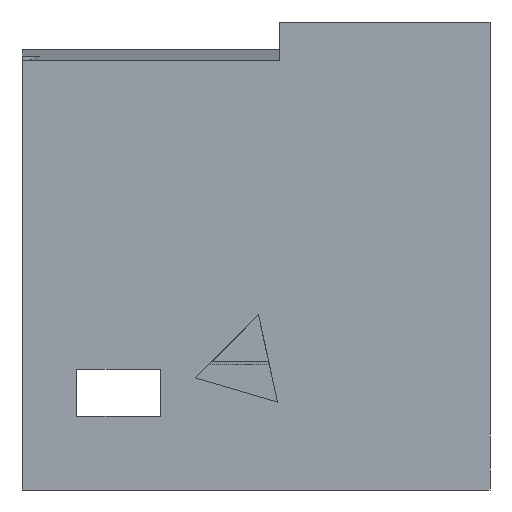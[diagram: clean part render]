
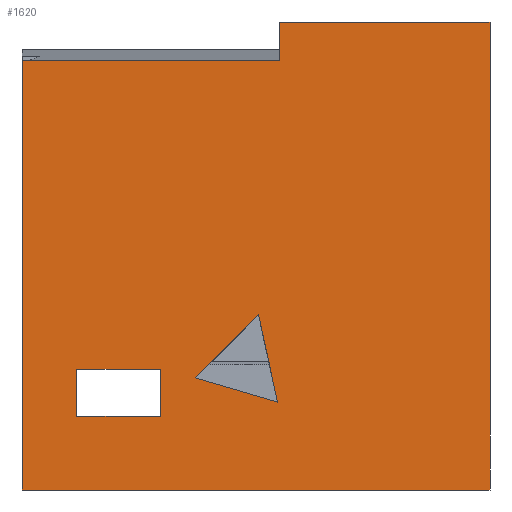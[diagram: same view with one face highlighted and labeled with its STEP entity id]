
A CAD part, front view. The second image highlights one B-rep face of the part: STEP entity #1620.
In plain terms, the highlighted planar face has unit normal (0, -1, 0).
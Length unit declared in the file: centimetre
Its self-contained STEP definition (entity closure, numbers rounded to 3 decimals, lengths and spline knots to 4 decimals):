
#12 = EDGE_CURVE ( 'NONE', #339, #1625, #585, .T. ) ;
#13 = EDGE_CURVE ( 'NONE', #671, #1727, #1277, .T. ) ;
#20 = CARTESIAN_POINT ( 'NONE',  ( 546.0761, 0., 187.8753 ) ) ;
#21 = EDGE_CURVE ( 'NONE', #740, #1259, #719, .T. ) ;
#25 = ORIENTED_EDGE ( 'NONE', *, *, #121, .F. ) ;
#32 = CARTESIAN_POINT ( 'NONE',  ( 0., 0., 1000. ) ) ;
#40 = LINE ( 'NONE', #764, #353 ) ;
#73 = LINE ( 'NONE', #886, #1039 ) ;
#107 = ORIENTED_EDGE ( 'NONE', *, *, #1722, .T. ) ;
#120 = CARTESIAN_POINT ( 'NONE',  ( 0., 0., 1000. ) ) ;
#121 = EDGE_CURVE ( 'NONE', #1512, #1029, #40, .T. ) ;
#124 = ORIENTED_EDGE ( 'NONE', *, *, #13, .T. ) ;
#156 = CARTESIAN_POINT ( 'NONE',  ( 546.0761, 0., 187.8753 ) ) ;
#162 = ORIENTED_EDGE ( 'NONE', *, *, #404, .T. ) ;
#166 = DIRECTION ( 'NONE',  ( -0.214, 0., 0.977 ) ) ;
#268 = EDGE_CURVE ( 'NONE', #1029, #1252, #447, .T. ) ;
#273 = FACE_OUTER_BOUND ( 'NONE', #704, .T. ) ;
#339 = VERTEX_POINT ( 'NONE', #840 ) ;
#353 = VECTOR ( 'NONE', #619, 100. ) ;
#363 = VECTOR ( 'NONE', #1642, 100. ) ;
#372 = CARTESIAN_POINT ( 'NONE',  ( 296.2615, 0., 258.4948 ) ) ;
#384 = CARTESIAN_POINT ( 'NONE',  ( 505.3133, 0., 374.2853 ) ) ;
#396 = EDGE_CURVE ( 'NONE', #1483, #671, #1164, .T. ) ;
#400 = VERTEX_POINT ( 'NONE', #1006 ) ;
#404 = EDGE_CURVE ( 'NONE', #1110, #1483, #73, .T. ) ;
#407 = EDGE_LOOP ( 'NONE', ( #25, #1112, #629 ) ) ;
#441 = ORIENTED_EDGE ( 'NONE', *, *, #579, .F. ) ;
#444 = VECTOR ( 'NONE', #576, 100. ) ;
#447 = LINE ( 'NONE', #1372, #838 ) ;
#465 = VECTOR ( 'NONE', #744, 100. ) ;
#499 = LINE ( 'NONE', #634, #753 ) ;
#510 = DIRECTION ( 'NONE',  ( -1., 0., 0. ) ) ;
#539 = DIRECTION ( 'NONE',  ( 0., 1., 0. ) ) ;
#564 = VECTOR ( 'NONE', #510, 100. ) ;
#576 = DIRECTION ( 'NONE',  ( 0., 0., -1. ) ) ;
#579 = EDGE_CURVE ( 'NONE', #1259, #339, #499, .T. ) ;
#585 = LINE ( 'NONE', #1545, #868 ) ;
#587 = VECTOR ( 'NONE', #1535, 100. ) ;
#607 = DIRECTION ( 'NONE',  ( 0., 0., -1. ) ) ;
#619 = DIRECTION ( 'NONE',  ( -0.707, 0., -0.707 ) ) ;
#620 = ORIENTED_EDGE ( 'NONE', *, *, #1742, .T. ) ;
#629 = ORIENTED_EDGE ( 'NONE', *, *, #268, .F. ) ;
#634 = CARTESIAN_POINT ( 'NONE',  ( 0., 0., 1000. ) ) ;
#671 = VERTEX_POINT ( 'NONE', #1446 ) ;
#694 = DIRECTION ( 'NONE',  ( 0., 0., 1. ) ) ;
#698 = ORIENTED_EDGE ( 'NONE', *, *, #396, .T. ) ;
#704 = EDGE_LOOP ( 'NONE', ( #1247, #1054, #1665, #620, #1497, #441 ) ) ;
#719 = LINE ( 'NONE', #1662, #1213 ) ;
#732 = LINE ( 'NONE', #32, #444 ) ;
#735 = CARTESIAN_POINT ( 'NONE',  ( 116.7908, 0., 157.3487 ) ) ;
#740 = VERTEX_POINT ( 'NONE', #777 ) ;
#744 = DIRECTION ( 'NONE',  ( 0., 0., 1. ) ) ;
#753 = VECTOR ( 'NONE', #1457, 100. ) ;
#762 = DIRECTION ( 'NONE',  ( -1., 0., 0. ) ) ;
#764 = CARTESIAN_POINT ( 'NONE',  ( 505.3133, 0., 374.2853 ) ) ;
#777 = CARTESIAN_POINT ( 'NONE',  ( 550.4569, 0., 916.9874 ) ) ;
#793 = PLANE ( 'NONE',  #874 ) ;
#835 = LINE ( 'NONE', #1115, #587 ) ;
#838 = VECTOR ( 'NONE', #959, 100. ) ;
#840 = CARTESIAN_POINT ( 'NONE',  ( 1000., 0., 1000. ) ) ;
#868 = VECTOR ( 'NONE', #1413, 100. ) ;
#874 = AXIS2_PLACEMENT_3D ( 'NONE', #120, #539, #694 ) ;
#886 = CARTESIAN_POINT ( 'NONE',  ( 296.2615, 0., 157.3487 ) ) ;
#894 = EDGE_LOOP ( 'NONE', ( #698, #124, #107, #162 ) ) ;
#922 = FACE_BOUND ( 'NONE', #894, .T. ) ;
#959 = DIRECTION ( 'NONE',  ( 0.959, 0., -0.282 ) ) ;
#962 = CARTESIAN_POINT ( 'NONE',  ( 116.7908, 0., 258.4948 ) ) ;
#997 = CARTESIAN_POINT ( 'NONE',  ( 550.4569, 0., 1000. ) ) ;
#1006 = CARTESIAN_POINT ( 'NONE',  ( 0., 0., 0. ) ) ;
#1009 = EDGE_CURVE ( 'NONE', #740, #1635, #1222, .T. ) ;
#1029 = VERTEX_POINT ( 'NONE', #1061 ) ;
#1039 = VECTOR ( 'NONE', #607, 100. ) ;
#1054 = ORIENTED_EDGE ( 'NONE', *, *, #1009, .T. ) ;
#1061 = CARTESIAN_POINT ( 'NONE',  ( 370.5327, 0., 239.5048 ) ) ;
#1095 = VECTOR ( 'NONE', #762, 100. ) ;
#1110 = VERTEX_POINT ( 'NONE', #372 ) ;
#1112 = ORIENTED_EDGE ( 'NONE', *, *, #1761, .F. ) ;
#1115 = CARTESIAN_POINT ( 'NONE',  ( 0., 0., 0. ) ) ;
#1164 = LINE ( 'NONE', #735, #1095 ) ;
#1197 = CARTESIAN_POINT ( 'NONE',  ( 550.4569, 0., 916.9874 ) ) ;
#1206 = CARTESIAN_POINT ( 'NONE',  ( 0., 0., 916.9874 ) ) ;
#1213 = VECTOR ( 'NONE', #1690, 100. ) ;
#1222 = LINE ( 'NONE', #1197, #564 ) ;
#1247 = ORIENTED_EDGE ( 'NONE', *, *, #21, .F. ) ;
#1252 = VERTEX_POINT ( 'NONE', #156 ) ;
#1259 = VERTEX_POINT ( 'NONE', #997 ) ;
#1277 = LINE ( 'NONE', #1681, #465 ) ;
#1365 = CARTESIAN_POINT ( 'NONE',  ( 116.7908, 0., 258.4948 ) ) ;
#1372 = CARTESIAN_POINT ( 'NONE',  ( 370.5327, 0., 239.5048 ) ) ;
#1413 = DIRECTION ( 'NONE',  ( 0., 0., -1. ) ) ;
#1437 = CARTESIAN_POINT ( 'NONE',  ( 296.2615, 0., 157.3487 ) ) ;
#1446 = CARTESIAN_POINT ( 'NONE',  ( 116.7908, 0., 157.3487 ) ) ;
#1454 = FACE_BOUND ( 'NONE', #407, .T. ) ;
#1457 = DIRECTION ( 'NONE',  ( 1., 0., 0. ) ) ;
#1464 = EDGE_CURVE ( 'NONE', #1635, #400, #732, .T. ) ;
#1483 = VERTEX_POINT ( 'NONE', #1437 ) ;
#1497 = ORIENTED_EDGE ( 'NONE', *, *, #12, .F. ) ;
#1512 = VERTEX_POINT ( 'NONE', #384 ) ;
#1535 = DIRECTION ( 'NONE',  ( 1., 0., 0. ) ) ;
#1545 = CARTESIAN_POINT ( 'NONE',  ( 1000., 0., 1000. ) ) ;
#1615 = LINE ( 'NONE', #1365, #363 ) ;
#1616 = VECTOR ( 'NONE', #166, 100. ) ;
#1620 = ADVANCED_FACE ( 'NONE', ( #1454, #922, #273 ), #793, .F. ) ;
#1625 = VERTEX_POINT ( 'NONE', #1748 ) ;
#1635 = VERTEX_POINT ( 'NONE', #1206 ) ;
#1642 = DIRECTION ( 'NONE',  ( 1., 0., 0. ) ) ;
#1661 = LINE ( 'NONE', #20, #1616 ) ;
#1662 = CARTESIAN_POINT ( 'NONE',  ( 550.4569, 0., 916.9874 ) ) ;
#1665 = ORIENTED_EDGE ( 'NONE', *, *, #1464, .T. ) ;
#1681 = CARTESIAN_POINT ( 'NONE',  ( 116.7908, 0., 157.3487 ) ) ;
#1690 = DIRECTION ( 'NONE',  ( 0., 0., 1. ) ) ;
#1722 = EDGE_CURVE ( 'NONE', #1727, #1110, #1615, .T. ) ;
#1727 = VERTEX_POINT ( 'NONE', #962 ) ;
#1742 = EDGE_CURVE ( 'NONE', #400, #1625, #835, .T. ) ;
#1748 = CARTESIAN_POINT ( 'NONE',  ( 1000., 0., 0. ) ) ;
#1761 = EDGE_CURVE ( 'NONE', #1252, #1512, #1661, .T. ) ;
